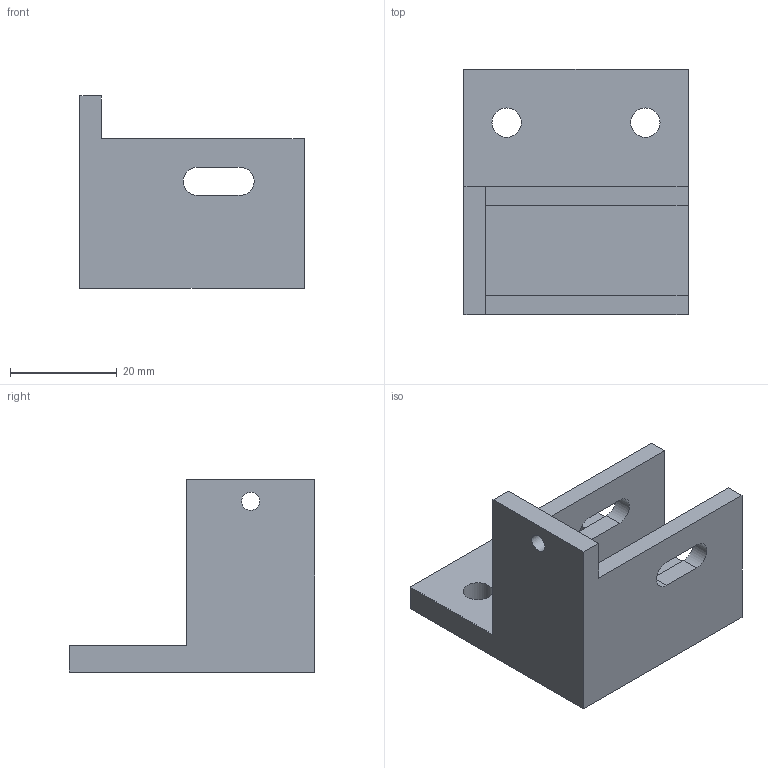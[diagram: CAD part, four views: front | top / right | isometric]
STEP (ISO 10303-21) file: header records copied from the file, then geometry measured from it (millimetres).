
FILE_DESCRIPTION(('Open CASCADE Model'),'2;1');
FILE_NAME('Open CASCADE Shape Model','2026-10-23T08:22:11',('Author'),( 'Open CASCADE'),'Open CASCADE STEP processor 7.9','Open CASCADE 7.9' ,'Unknown');
FILE_SCHEMA(('AUTOMOTIVE_DESIGN { 1 0 10303 214 1 1 1 1 }'));
Length unit declared in the file: millimetre
Products named in the file (1): Open CASCADE STEP translator 7.9 4
Bounding box: 42 x 46 x 36 mm (x, y, z)
Volume: 18028.9 mm3; surface area: 10049 mm2
Topology: 1 solids, 1 shells, 25 faces, 69 edges, 46 vertices
Faces by surface type: plane 18, cylinder 7
Full cylindrical faces by diameter (mm): 3.4 x1, 5.5 x2
Entity records: 1724 total; most frequent: CARTESIAN_POINT 279, DIRECTION 273, LINE 179, VECTOR 179, ORIENTED_EDGE 138, PCURVE 138, DEFINITIONAL_REPRESENTATION 138, EDGE_CURVE 69
